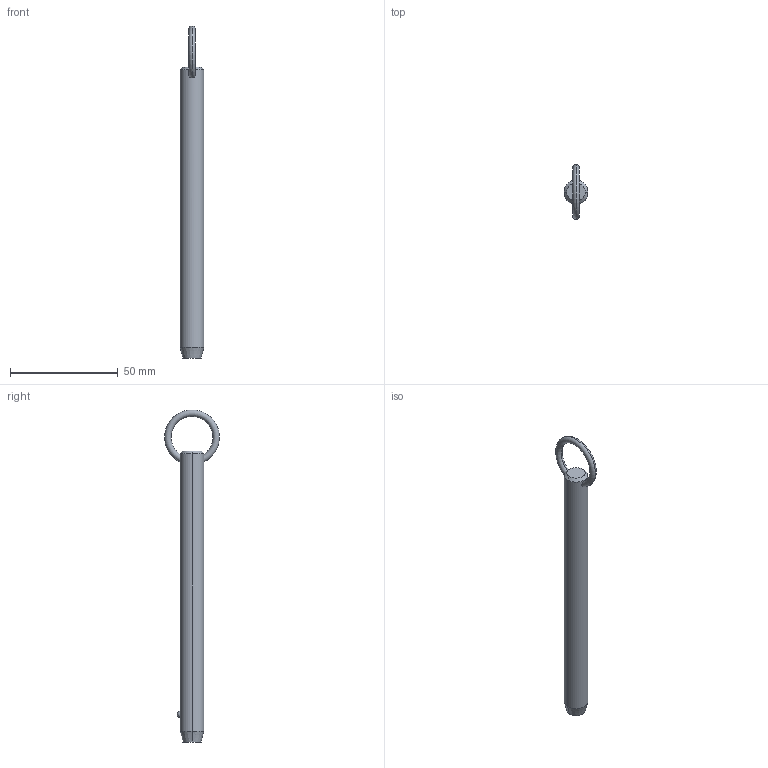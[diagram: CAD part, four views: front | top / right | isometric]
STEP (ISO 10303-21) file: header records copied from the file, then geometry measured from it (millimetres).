
FILE_DESCRIPTION (( 'STEP AP203' ), '1' );
FILE_NAME ('P1250.050-450.step', '2019-07-29T20:37:21', ( '' ), ( '' ), 'SwSTEP 2.0', 'SolidWorks 2017', '' );
FILE_SCHEMA (( 'CONFIG_CONTROL_DESIGN' ));
Length unit declared in the file: millimetre
Products named in the file (1): P1250.050-450
Bounding box: 11.1 x 25.32 x 153.85 mm (x, y, z)
Volume: 13336.8 mm3; surface area: 5356.8 mm2
Topology: 1 solids, 1 shells, 12 faces, 28 edges, 17 vertices
Faces by surface type: cone 4, torus 2, sphere 2, cylinder 2, plane 2
Entity records: 523 total; most frequent: CARTESIAN_POINT 190, DIRECTION 56, ORIENTED_EDGE 48, AXIS2_PLACEMENT_3D 25, EDGE_CURVE 24, VERTEX_POINT 15, EDGE_LOOP 15, ADVANCED_FACE 12
